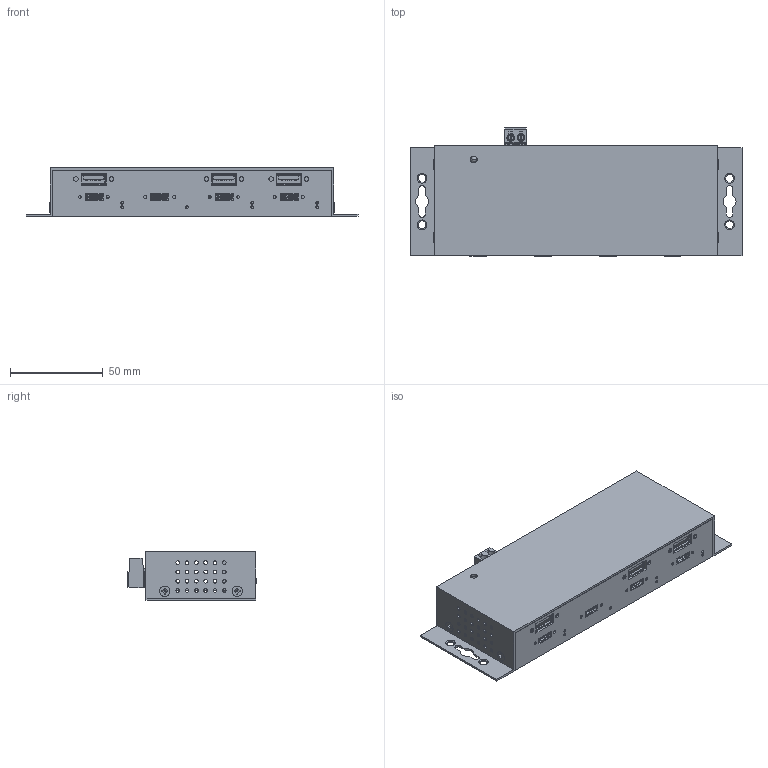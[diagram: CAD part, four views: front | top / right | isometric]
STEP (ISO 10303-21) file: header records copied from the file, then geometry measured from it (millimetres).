
FILE_DESCRIPTION(('FreeCAD Model'),'2;1');
FILE_NAME('X:/Technische Zeichnungen/EX-1237HMVS/EX-1237HMVS_3D.step', '2021-02-08T10:28:20',('Author'),(''), 'Open CASCADE STEP processor 7.3','FreeCAD','Unknown');
FILE_SCHEMA(('AUTOMOTIVE_DESIGN { 1 0 10303 214 1 1 1 1 }'));
Products named in the file (1): EX-1237HMVS_3D
Bounding box: 178.6 x 69.13 x 26 mm (x, y, z)
Volume: 55491.1 mm3; surface area: 95357.3 mm2
Topology: 2 solids, 3 shells, 6516 faces, 19749 edges, 13163 vertices
Faces by surface type: plane 4753, cylinder 1546, cone 124, torus 73, sphere 14, revolution 6
Full cylindrical faces by diameter (mm): 0.55 x10, 1.4 x7, 1.5 x5, 1.6 x8, 1.8 x1, 2 x52, 2.4 x6, 2.459 x4, 2.5 x1, 2.6 x5, 3 x9, 3.12 x2, 3.2 x2, 3.4 x6, 3.6 x1, 4 x7, 4.2 x4, 5.3 x4, 5.5 x4, 6.4 x1, 8.5 x1
Entity records: 683152 total; most frequent: CARTESIAN_POINT 264705, DIRECTION 63920, LINE 40812, VECTOR 40812, ORIENTED_EDGE 39470, PCURVE 39470, DEFINITIONAL_REPRESENTATION 39470, EDGE_CURVE 19735
